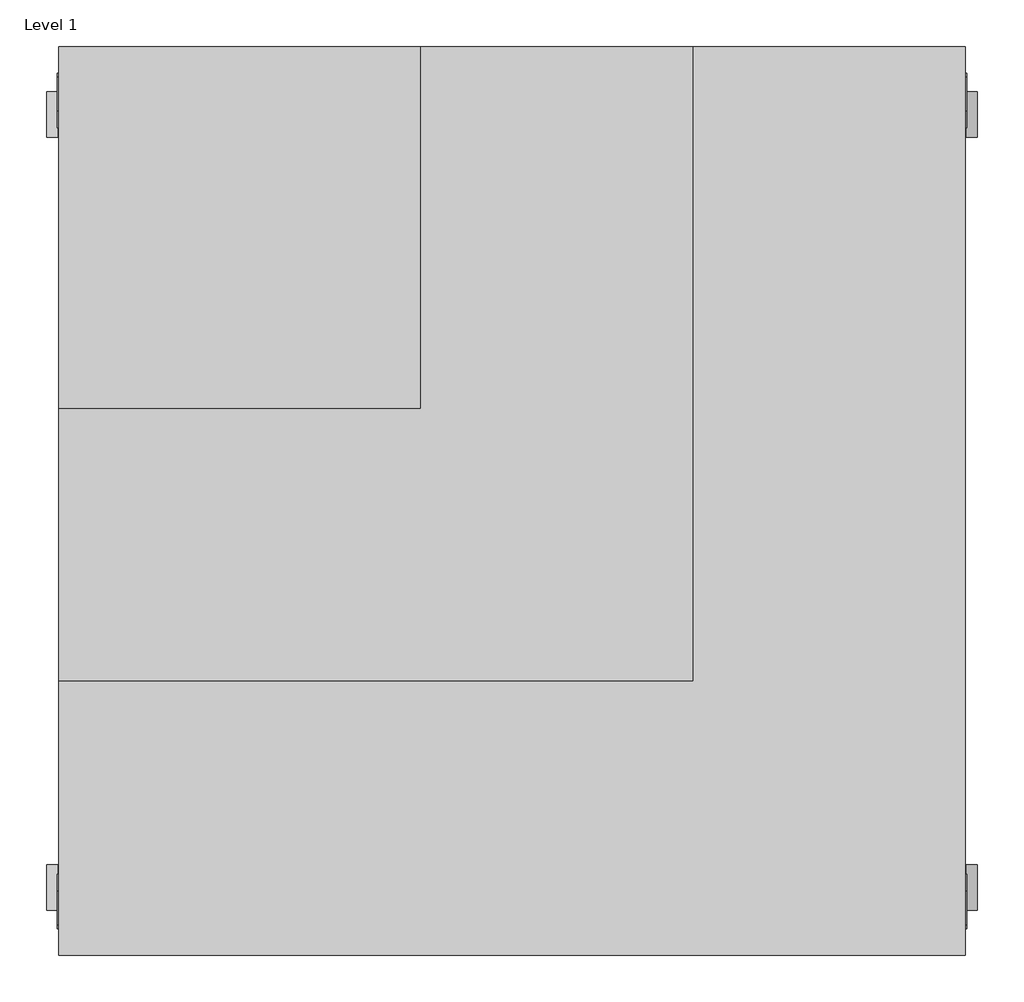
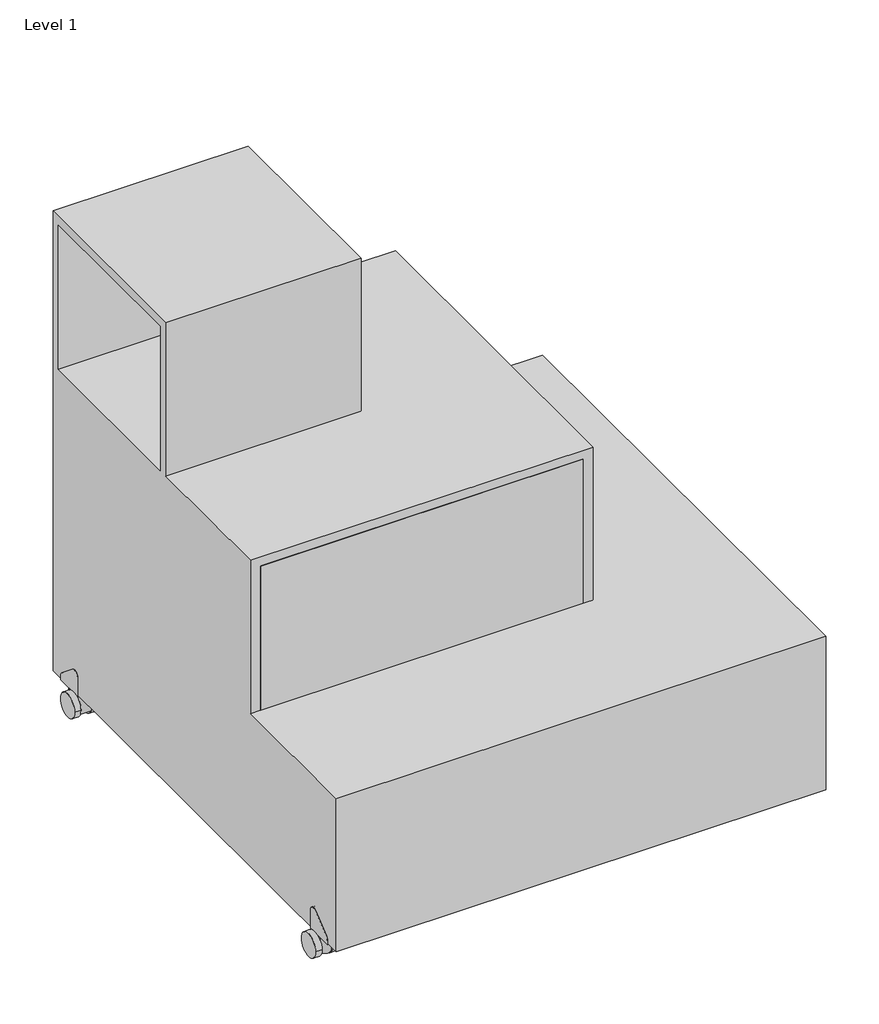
# One storey: 1 furniture element.
"""IFC4 building model written with IfcOpenShell, lengths in millimetres."""

from ifc_helpers import new_model, si_unit, origin, place, context, project, spatial, transform, mapped, element, save
from components import bk_library_story_bk_library_story_77f8d59b

model = new_model("IFC4")

# Units and contexts
model_context = context("Model", 3, world=origin())
ifc_project = project(units=[si_unit("LENGTHUNIT", "METRE", prefix="MILLI")], contexts=[model_context])

# Site, building, storey
site = spatial("IfcSite", under=ifc_project)
building = spatial("IfcBuilding", under=site)
storey = spatial("IfcBuildingStorey", under=building, Name="Level 1", Elevation=0.0)

# Furniture
placement = place(None, origin())
bk_library_story_bk_library_story_shape = bk_library_story_bk_library_story_77f8d59b(model_context)
element("IfcFurniture", 1, ObjectType="BK Library - Story : BK Library - Story", at=placement, inside=storey, context=model_context, shape_type="MappedRepresentation", body=[
    mapped(bk_library_story_bk_library_story_shape, transform((-2769.7402318, 2197.9079464, -348.6569781), x_axis=(0.0, 1.0, 0.0), y_axis=(-1.0, 0.0, 0.0), z_axis=(0.0, 0.0, 1.0))),
])

save(model, "model.ifc")
